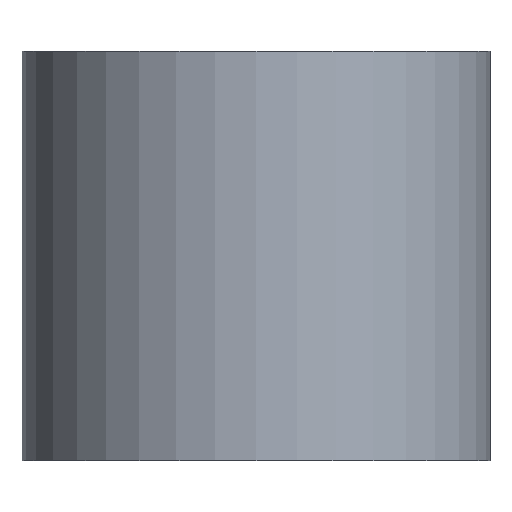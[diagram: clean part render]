
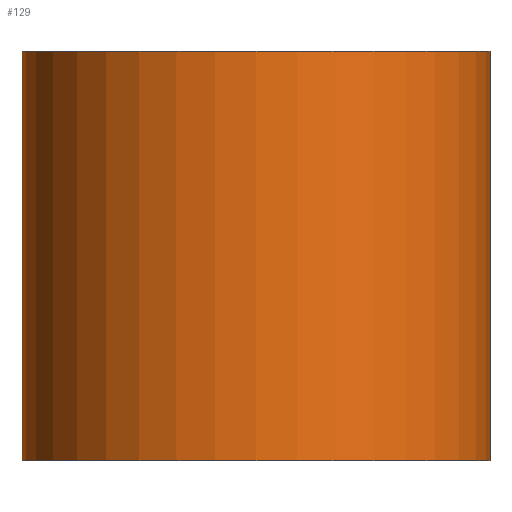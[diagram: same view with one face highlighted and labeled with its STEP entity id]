
A CAD part, front view. The second image highlights one B-rep face of the part: STEP entity #129.
In plain terms, the highlighted cylindrical face has radius 20 mm (diameter 40 mm), a partial arc.
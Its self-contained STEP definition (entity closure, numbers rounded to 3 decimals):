
#102=CYLINDRICAL_SURFACE('',#250,20.);
#108=FACE_OUTER_BOUND('',#150,.T.);
#113=LINE('',#337,#119);
#114=LINE('',#338,#120);
#119=VECTOR('',#295,1.);
#120=VECTOR('',#296,1.);
#129=ADVANCED_FACE('',(#108),#102,.T.);
#150=EDGE_LOOP('',(#183,#184,#185,#186));
#183=ORIENTED_EDGE('',*,*,#215,.F.);
#184=ORIENTED_EDGE('',*,*,#214,.T.);
#185=ORIENTED_EDGE('',*,*,#216,.T.);
#186=ORIENTED_EDGE('',*,*,#199,.F.);
#187=VERTEX_POINT('',#303);
#188=VERTEX_POINT('',#304);
#197=VERTEX_POINT('',#333);
#198=VERTEX_POINT('',#334);
#199=EDGE_CURVE('',#187,#188,#217,.T.);
#214=EDGE_CURVE('',#198,#197,#228,.T.);
#215=EDGE_CURVE('',#198,#187,#113,.T.);
#216=EDGE_CURVE('',#197,#188,#114,.T.);
#217=CIRCLE('',#230,20.);
#228=CIRCLE('',#247,20.);
#230=AXIS2_PLACEMENT_3D('',#302,#253,#254);
#247=AXIS2_PLACEMENT_3D('',#335,#291,#292);
#250=AXIS2_PLACEMENT_3D('',#340,#299,#300);
#253=DIRECTION('',(0.,0.,1.));
#254=DIRECTION('',(0.,1.,0.));
#291=DIRECTION('',(0.,0.,1.));
#292=DIRECTION('',(0.,1.,0.));
#295=DIRECTION('',(0.,0.,1.));
#296=DIRECTION('',(0.,0.,1.));
#299=DIRECTION('',(0.,0.,1.));
#300=DIRECTION('',(0.,-1.,0.));
#302=CARTESIAN_POINT('',(0.,0.,35.));
#303=CARTESIAN_POINT('',(-20.,0.,35.));
#304=CARTESIAN_POINT('',(20.,0.,35.));
#333=CARTESIAN_POINT('',(20.,0.,0.));
#334=CARTESIAN_POINT('',(-20.,0.,0.));
#335=CARTESIAN_POINT('',(0.,0.,0.));
#337=CARTESIAN_POINT('',(-20.,0.,0.));
#338=CARTESIAN_POINT('',(20.,0.,0.));
#340=CARTESIAN_POINT('',(0.,0.,0.));
